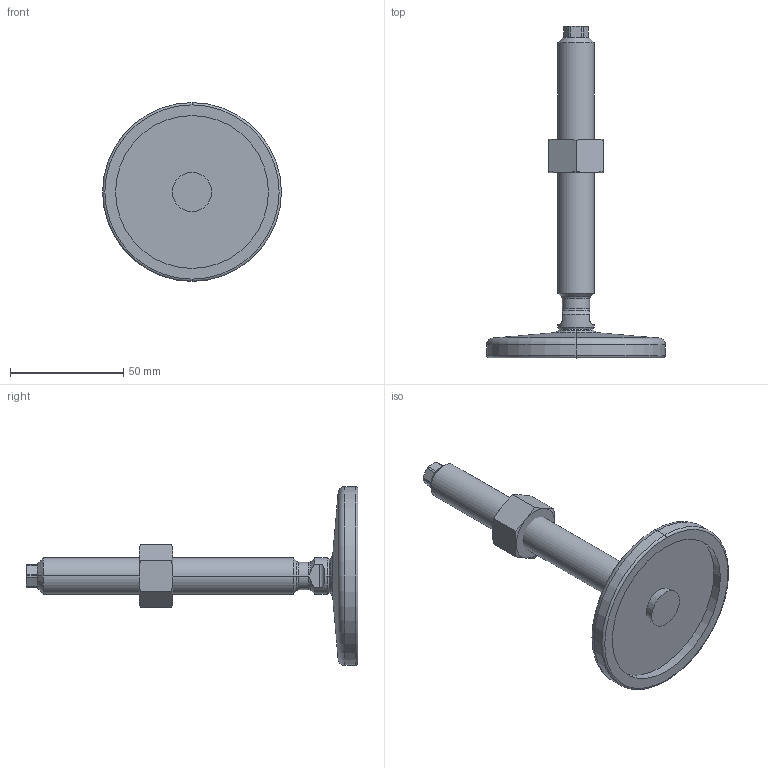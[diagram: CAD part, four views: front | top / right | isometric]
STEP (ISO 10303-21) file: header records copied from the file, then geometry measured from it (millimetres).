
FILE_DESCRIPTION (( 'STEP AP214' ), '1' );
FILE_NAME ('21-80-M16-125-D0-VK.step', '2020-10-02T17:36:02', ( '' ), ( '' ), 'SwSTEP 2.0', 'SolidWorks 2019', '' );
FILE_SCHEMA (( 'AUTOMOTIVE_DESIGN' ));
Length unit declared in the file: millimetre
Products named in the file (4): 21-80-M16-125-D0-VK; WB21_Fußteller 21^WB21_V_D0-080-R10-B7 (M8 M10_M12_M16); WB4032^WB21_V_M16; WB21_Spindel_V^WB21_V_M16-125
Assembly tree (3 placements, depth 2):
  21-80-M16-125-D0-VK
    WB21_Fußteller 21^WB21_V_D0-080-R10-B7 (M8 M10_M12_M16)
    WB21_Spindel_V^WB21_V_M16-125
    WB4032^WB21_V_M16
Bounding box: 79 x 146.64 x 79 mm (x, y, z)
Volume: 62109.9 mm3; surface area: 22722.6 mm2
Topology: 3 solids, 3 shells, 101 faces, 225 edges, 133 vertices
Faces by surface type: cone 33, plane 29, cylinder 25, torus 10, sphere 4
Entity records: 3168 total; most frequent: CARTESIAN_POINT 741, DIRECTION 492, ORIENTED_EDGE 450, EDGE_CURVE 225, AXIS2_PLACEMENT_3D 212, VERTEX_POINT 133, EDGE_LOOP 106, CIRCLE 105
